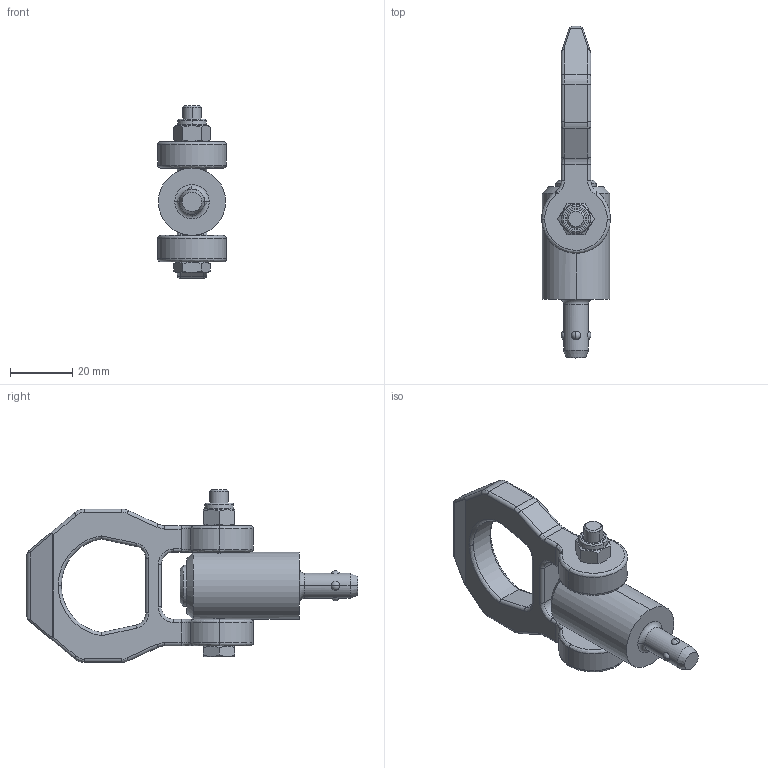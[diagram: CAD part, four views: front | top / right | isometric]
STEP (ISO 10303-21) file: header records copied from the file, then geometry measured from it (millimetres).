
FILE_DESCRIPTION (( 'STEP AP214' ), '1' );
FILE_NAME ('1130-8-10-NI.step', '2023-05-11T09:32:09', ( '' ), ( '' ), 'SwSTEP 2.0', 'SolidWorks 2022', '' );
FILE_SCHEMA (( 'AUTOMOTIVE_DESIGN' ));
Length unit declared in the file: millimetre
Products named in the file (3): Kopie von ring2^WB1130_NI; Kopie von bolzen1^WB1130_NI_8-10-NI; 1130-8-10-NI
Assembly tree (2 placements, depth 2):
  1130-8-10-NI
    Kopie von bolzen1^WB1130_NI_8-10-NI
    Kopie von ring2^WB1130_NI
Bounding box: 22 x 106.25 x 55.25 mm (x, y, z)
Volume: 33038.2 mm3; surface area: 11889.6 mm2
Topology: 2 solids, 2 shells, 248 faces, 611 edges, 375 vertices
Faces by surface type: plane 83, cylinder 77, bspline 48, cone 26, sphere 8, torus 6
Entity records: 9660 total; most frequent: CARTESIAN_POINT 4272, ORIENTED_EDGE 1222, DIRECTION 919, EDGE_CURVE 611, VERTEX_POINT 375, AXIS2_PLACEMENT_3D 345, EDGE_LOOP 262, FACE_OUTER_BOUND 248
